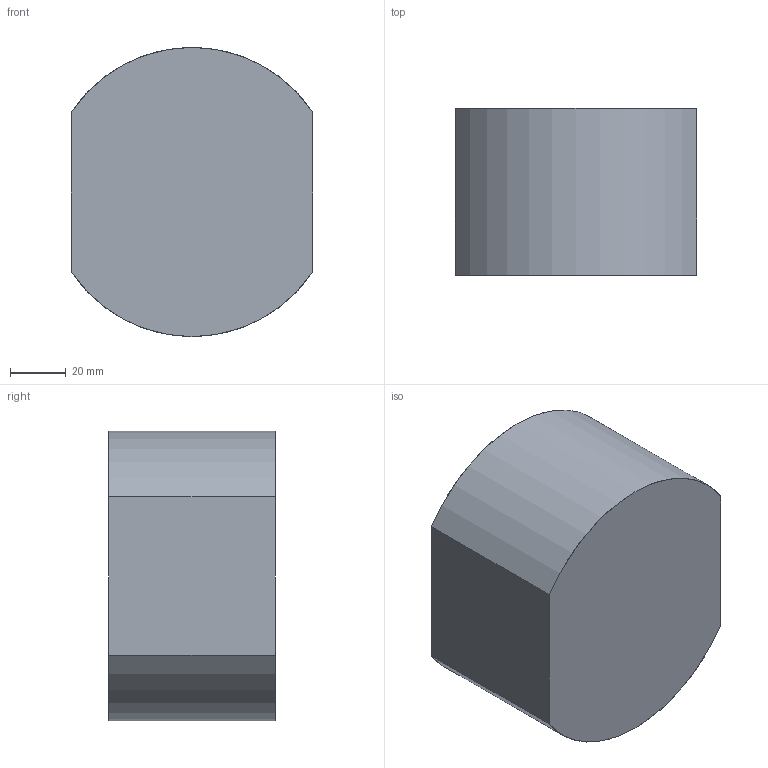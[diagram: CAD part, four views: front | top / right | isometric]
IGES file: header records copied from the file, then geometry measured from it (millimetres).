
Start section: SolidWorks IGES file using analytic representation for surfaces
Global section: file name: C:\Users\Agamemnon\Dropbox\BR-Engineering\PROJECTS\BROV2-HEAVY\MODELS\DEVELOPMENT\BROV2-HEAVY-FILES\BROV2-HEAVY-P-BUOYANCY-X1B1.IGS; native system: SolidWorks 2016; preprocessor: SolidWorks 2016; author: Agamemnon; date: 180619.144829; units: metre
Bounding box: 87 x 60 x 104 mm (x, y, z)
Surface area: 34880.2 mm2 (no closed solid volume)
Topology: 0 solids, 0 shells, 7 faces, 88 edges, 88 vertices
Faces by surface type: bspline 4, revolution 3
